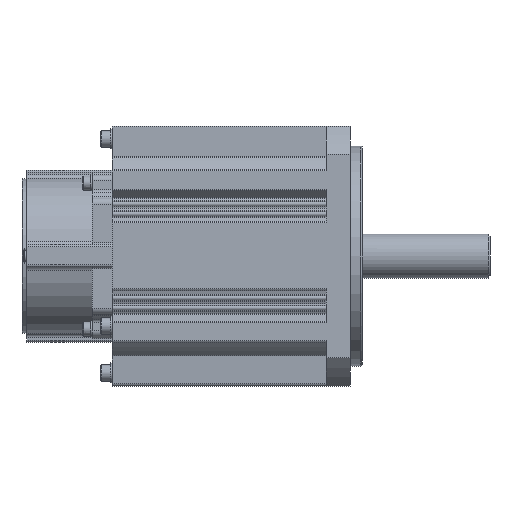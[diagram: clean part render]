
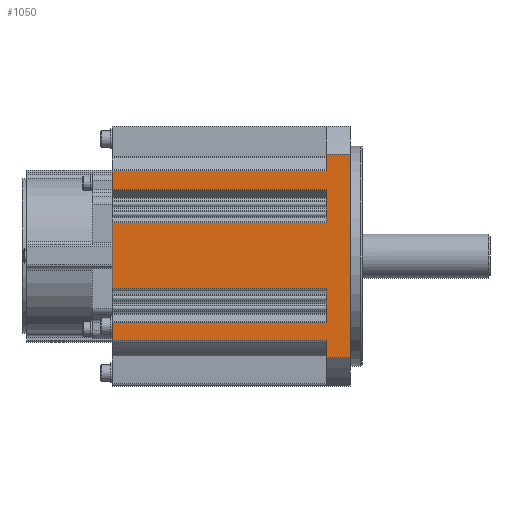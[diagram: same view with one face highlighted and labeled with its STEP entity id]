
A CAD part, front view. The second image highlights one B-rep face of the part: STEP entity #1050.
In plain terms, the highlighted planar face has unit normal (0, -1, 0).
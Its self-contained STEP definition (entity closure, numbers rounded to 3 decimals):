
#1050 = ADVANCED_FACE( '', ( #2492 ), #2493, .T. );
#2492 = FACE_OUTER_BOUND( '', #4366, .T. );
#2493 = PLANE( '', #4367 );
#4366 = EDGE_LOOP( '', ( #7415, #7416, #7417, #7418, #7419, #7420, #7421, #7422, #7423, #7424, #7425, #7426, #7427, #7428, #7429, #7430, #7431, #7432, #7433, #7434 ) );
#4367 = AXIS2_PLACEMENT_3D( '', #7435, #7436, #7437 );
#7415 = ORIENTED_EDGE( '', *, *, #10811, .F. );
#7416 = ORIENTED_EDGE( '', *, *, #10921, .T. );
#7417 = ORIENTED_EDGE( '', *, *, #11729, .F. );
#7418 = ORIENTED_EDGE( '', *, *, #11760, .F. );
#7419 = ORIENTED_EDGE( '', *, *, #11002, .F. );
#7420 = ORIENTED_EDGE( '', *, *, #11761, .T. );
#7421 = ORIENTED_EDGE( '', *, *, #11762, .T. );
#7422 = ORIENTED_EDGE( '', *, *, #11645, .F. );
#7423 = ORIENTED_EDGE( '', *, *, #11763, .F. );
#7424 = ORIENTED_EDGE( '', *, *, #11070, .F. );
#7425 = ORIENTED_EDGE( '', *, *, #11764, .F. );
#7426 = ORIENTED_EDGE( '', *, *, #11765, .T. );
#7427 = ORIENTED_EDGE( '', *, *, #11766, .T. );
#7428 = ORIENTED_EDGE( '', *, *, #11767, .F. );
#7429 = ORIENTED_EDGE( '', *, *, #11768, .F. );
#7430 = ORIENTED_EDGE( '', *, *, #10987, .F. );
#7431 = ORIENTED_EDGE( '', *, *, #11769, .F. );
#7432 = ORIENTED_EDGE( '', *, *, #11770, .T. );
#7433 = ORIENTED_EDGE( '', *, *, #11771, .T. );
#7434 = ORIENTED_EDGE( '', *, *, #11772, .F. );
#7435 = CARTESIAN_POINT( '', ( -119., -65., 50.806 ) );
#7436 = DIRECTION( '', ( 0., -1., 0. ) );
#7437 = DIRECTION( '', ( 0., 0., -1. ) );
#10811 = EDGE_CURVE( '', #12921, #12922, #12923, .T. );
#10921 = EDGE_CURVE( '', #12921, #13116, #13118, .T. );
#10987 = EDGE_CURVE( '', #13234, #13235, #13236, .T. );
#11002 = EDGE_CURVE( '', #13260, #13262, #13263, .T. );
#11070 = EDGE_CURVE( '', #13376, #13377, #13378, .T. );
#11645 = EDGE_CURVE( '', #14309, #14304, #14311, .T. );
#11729 = EDGE_CURVE( '', #14436, #13116, #14438, .T. );
#11760 = EDGE_CURVE( '', #13262, #14436, #14487, .T. );
#11761 = EDGE_CURVE( '', #13260, #14488, #14489, .T. );
#11762 = EDGE_CURVE( '', #14488, #14304, #14490, .T. );
#11763 = EDGE_CURVE( '', #13377, #14309, #14491, .T. );
#11764 = EDGE_CURVE( '', #14492, #13376, #14493, .T. );
#11765 = EDGE_CURVE( '', #14492, #14494, #14495, .T. );
#11766 = EDGE_CURVE( '', #14494, #14496, #14497, .T. );
#11767 = EDGE_CURVE( '', #14498, #14496, #14499, .T. );
#11768 = EDGE_CURVE( '', #13235, #14498, #14500, .T. );
#11769 = EDGE_CURVE( '', #14501, #13234, #14502, .T. );
#11770 = EDGE_CURVE( '', #14501, #14503, #14504, .T. );
#11771 = EDGE_CURVE( '', #14503, #14505, #14506, .T. );
#11772 = EDGE_CURVE( '', #12922, #14505, #14507, .T. );
#12921 = VERTEX_POINT( '', #15949 );
#12922 = VERTEX_POINT( '', #15950 );
#12923 = LINE( '', #15951, #15952 );
#13116 = VERTEX_POINT( '', #16220 );
#13118 = LINE( '', #16222, #16223 );
#13234 = VERTEX_POINT( '', #16369 );
#13235 = VERTEX_POINT( '', #16370 );
#13236 = LINE( '', #16371, #16372 );
#13260 = VERTEX_POINT( '', #16400 );
#13262 = VERTEX_POINT( '', #16402 );
#13263 = LINE( '', #16403, #16404 );
#13376 = VERTEX_POINT( '', #16553 );
#13377 = VERTEX_POINT( '', #16554 );
#13378 = LINE( '', #16555, #16556 );
#14304 = VERTEX_POINT( '', #17886 );
#14309 = VERTEX_POINT( '', #17892 );
#14311 = LINE( '', #17894, #17895 );
#14436 = VERTEX_POINT( '', #18125 );
#14438 = LINE( '', #18127, #18128 );
#14487 = LINE( '', #18193, #18194 );
#14488 = VERTEX_POINT( '', #18195 );
#14489 = LINE( '', #18196, #18197 );
#14490 = LINE( '', #18198, #18199 );
#14491 = LINE( '', #18200, #18201 );
#14492 = VERTEX_POINT( '', #18202 );
#14493 = LINE( '', #18203, #18204 );
#14494 = VERTEX_POINT( '', #18205 );
#14495 = LINE( '', #18206, #18207 );
#14496 = VERTEX_POINT( '', #18208 );
#14497 = LINE( '', #18209, #18210 );
#14498 = VERTEX_POINT( '', #18211 );
#14499 = LINE( '', #18212, #18213 );
#14500 = LINE( '', #18214, #18215 );
#14501 = VERTEX_POINT( '', #18216 );
#14502 = LINE( '', #18217, #18218 );
#14503 = VERTEX_POINT( '', #18219 );
#14504 = LINE( '', #18220, #18221 );
#14505 = VERTEX_POINT( '', #18222 );
#14506 = LINE( '', #18223, #18224 );
#14507 = LINE( '', #18225, #18226 );
#15949 = CARTESIAN_POINT( '', ( -12., -65., -50.806 ) );
#15950 = CARTESIAN_POINT( '', ( -12., -65., -42.5 ) );
#15951 = CARTESIAN_POINT( '', ( -12., -65., 50.806 ) );
#15952 = VECTOR( '', #20003, 1000. );
#16220 = CARTESIAN_POINT( '', ( 0., -65., -50.806 ) );
#16222 = CARTESIAN_POINT( '', ( -119., -65., -50.806 ) );
#16223 = VECTOR( '', #20149, 1000. );
#16369 = CARTESIAN_POINT( '', ( -12., -65., -26. ) );
#16370 = CARTESIAN_POINT( '', ( -12., -65., -21. ) );
#16371 = CARTESIAN_POINT( '', ( -12., -65., 50.806 ) );
#16372 = VECTOR( '', #20249, 1000. );
#16400 = CARTESIAN_POINT( '', ( -12., -65., 42.5 ) );
#16402 = CARTESIAN_POINT( '', ( -12., -65., 50.806 ) );
#16403 = CARTESIAN_POINT( '', ( -12., -65., 50.806 ) );
#16404 = VECTOR( '', #20281, 1000. );
#16553 = CARTESIAN_POINT( '', ( -12., -65., 21. ) );
#16554 = CARTESIAN_POINT( '', ( -12., -65., 26. ) );
#16555 = CARTESIAN_POINT( '', ( -12., -65., 50.806 ) );
#16556 = VECTOR( '', #20366, 1000. );
#17886 = CARTESIAN_POINT( '', ( -119., -65., 33.089 ) );
#17892 = CARTESIAN_POINT( '', ( -12., -65., 33.089 ) );
#17894 = CARTESIAN_POINT( '', ( -12., -65., 33.089 ) );
#17895 = VECTOR( '', #21101, 1000. );
#18125 = CARTESIAN_POINT( '', ( 0., -65., 50.806 ) );
#18127 = CARTESIAN_POINT( '', ( 0., -65., 50.806 ) );
#18128 = VECTOR( '', #21203, 1000. );
#18193 = CARTESIAN_POINT( '', ( -119., -65., 50.806 ) );
#18194 = VECTOR( '', #21241, 1000. );
#18195 = CARTESIAN_POINT( '', ( -119., -65., 42.5 ) );
#18196 = CARTESIAN_POINT( '', ( -12., -65., 42.5 ) );
#18197 = VECTOR( '', #21242, 1000. );
#18198 = CARTESIAN_POINT( '', ( -119., -65., 50.806 ) );
#18199 = VECTOR( '', #21243, 1000. );
#18200 = CARTESIAN_POINT( '', ( -12., -65., 50.806 ) );
#18201 = VECTOR( '', #21244, 1000. );
#18202 = CARTESIAN_POINT( '', ( -12., -65., 16.5 ) );
#18203 = CARTESIAN_POINT( '', ( -12., -65., 50.806 ) );
#18204 = VECTOR( '', #21245, 1000. );
#18205 = CARTESIAN_POINT( '', ( -119., -65., 16.5 ) );
#18206 = CARTESIAN_POINT( '', ( -12., -65., 16.5 ) );
#18207 = VECTOR( '', #21246, 1000. );
#18208 = CARTESIAN_POINT( '', ( -119., -65., -16.5 ) );
#18209 = CARTESIAN_POINT( '', ( -119., -65., 50.806 ) );
#18210 = VECTOR( '', #21247, 1000. );
#18211 = CARTESIAN_POINT( '', ( -12., -65., -16.5 ) );
#18212 = CARTESIAN_POINT( '', ( -12., -65., -16.5 ) );
#18213 = VECTOR( '', #21248, 1000. );
#18214 = CARTESIAN_POINT( '', ( -12., -65., 50.806 ) );
#18215 = VECTOR( '', #21249, 1000. );
#18216 = CARTESIAN_POINT( '', ( -12., -65., -33.089 ) );
#18217 = CARTESIAN_POINT( '', ( -12., -65., 50.806 ) );
#18218 = VECTOR( '', #21250, 1000. );
#18219 = CARTESIAN_POINT( '', ( -119., -65., -33.089 ) );
#18220 = CARTESIAN_POINT( '', ( -12., -65., -33.089 ) );
#18221 = VECTOR( '', #21251, 1000. );
#18222 = CARTESIAN_POINT( '', ( -119., -65., -42.5 ) );
#18223 = CARTESIAN_POINT( '', ( -119., -65., 50.806 ) );
#18224 = VECTOR( '', #21252, 1000. );
#18225 = CARTESIAN_POINT( '', ( -12., -65., -42.5 ) );
#18226 = VECTOR( '', #21253, 1000. );
#20003 = DIRECTION( '', ( 0., 0., 1. ) );
#20149 = DIRECTION( '', ( 1., 0., 0. ) );
#20249 = DIRECTION( '', ( 0., 0., 1. ) );
#20281 = DIRECTION( '', ( 0., 0., 1. ) );
#20366 = DIRECTION( '', ( 0., 0., 1. ) );
#21101 = DIRECTION( '', ( -1., 0., 0. ) );
#21203 = DIRECTION( '', ( 0., 0., -1. ) );
#21241 = DIRECTION( '', ( 1., 0., 0. ) );
#21242 = DIRECTION( '', ( -1., 0., 0. ) );
#21243 = DIRECTION( '', ( 0., 0., -1. ) );
#21244 = DIRECTION( '', ( 0., 0., 1. ) );
#21245 = DIRECTION( '', ( 0., 0., 1. ) );
#21246 = DIRECTION( '', ( -1., 0., 0. ) );
#21247 = DIRECTION( '', ( 0., 0., -1. ) );
#21248 = DIRECTION( '', ( -1., 0., 0. ) );
#21249 = DIRECTION( '', ( 0., 0., 1. ) );
#21250 = DIRECTION( '', ( 0., 0., 1. ) );
#21251 = DIRECTION( '', ( -1., 0., 0. ) );
#21252 = DIRECTION( '', ( 0., 0., -1. ) );
#21253 = DIRECTION( '', ( -1., 0., 0. ) );
